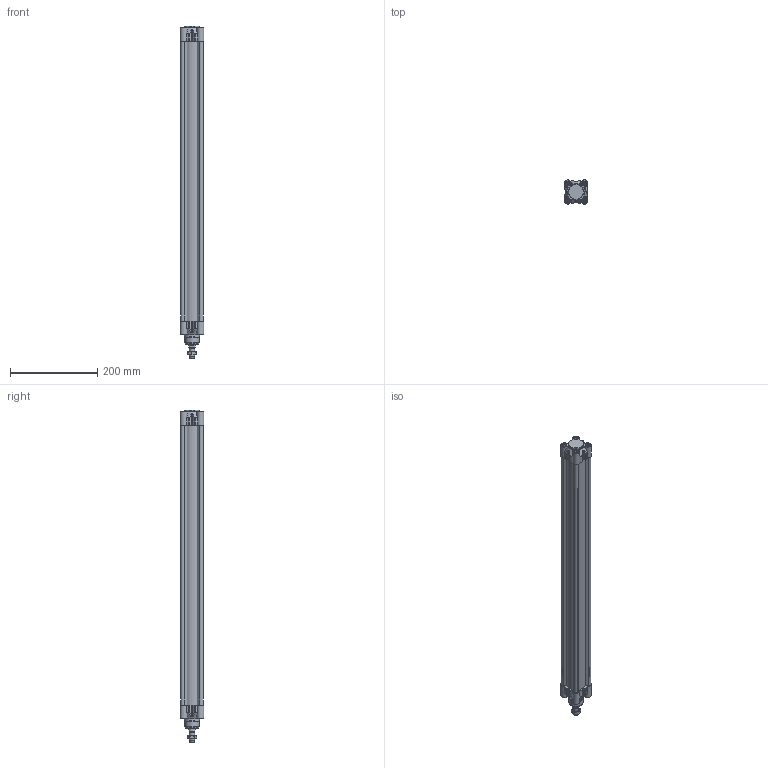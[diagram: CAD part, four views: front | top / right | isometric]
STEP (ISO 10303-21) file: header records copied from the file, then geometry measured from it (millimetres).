
FILE_DESCRIPTION(/* description */ ('Unknown'),/* implementation_level */ '2;1');
FILE_NAME(/* name */ 'HIF 40_600',/* time_stamp */ '2024-08-12T07:46:18+02:00',/* author */ ('Unknown'),/* organization */ ('Unknown'),/* preprocessor_version */ 'ST-DEVELOPER v16.7',/* originating_system */ 'Solid Edge',/* authorisation */ 'Unknown');
FILE_SCHEMA (('AUTOMOTIVE_DESIGN {1 0 10303 214 3 1 1}'));
Length unit declared in the file: millimetre
Products named in the file (6): HIF 40_600; Kit_2; Kit_1; Profilrohr 40_600; Mutter; Kolbenstange 40_600
Assembly tree (5 placements, depth 2):
  HIF 40_600
    Kit_2
    Kit_1
    Profilrohr 40_600
    Mutter
    Kolbenstange 40_600
Bounding box: 54.5 x 54.5 x 763 mm (x, y, z)
Volume: 742623.7 mm3; surface area: 434581.4 mm2
Topology: 5 solids, 10 shells, 922 faces, 2342 edges, 1525 vertices
Faces by surface type: plane 367, cylinder 300, cone 89, torus 74, bspline 74, sphere 18
Full cylindrical faces by diameter (mm): 2.5 x2, 4.917 x16, 6 x8, 6.2 x8, 7 x2, 9.9 x2, 10 x13, 10.3 x8, 10.647 x1, 11.44 x2, 11.445 x2, 12 x1, 15.5 x1, 16 x2, 16.6 x1, 16.8 x1, 16.847 x1, 20 x1, 26 x2, 33 x1, 35 x2, 40 x2
Entity records: 35939 total; most frequent: CARTESIAN_POINT 8998, ORIENTED_EDGE 4544, DIRECTION 4322, EDGE_CURVE 2272, AXIS2_PLACEMENT_3D 1647, VERTEX_POINT 1507, FACE_BOUND 1081, EDGE_LOOP 1073
